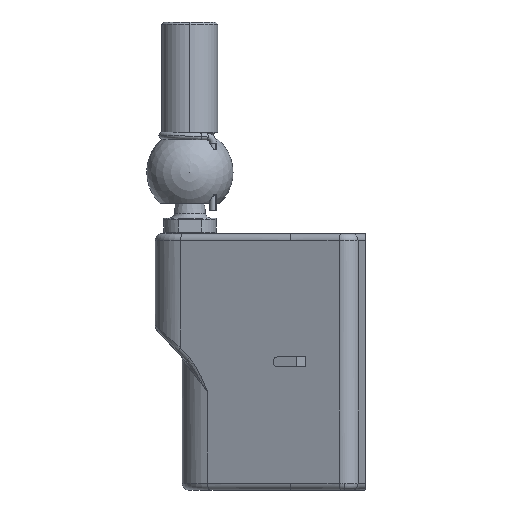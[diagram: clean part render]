
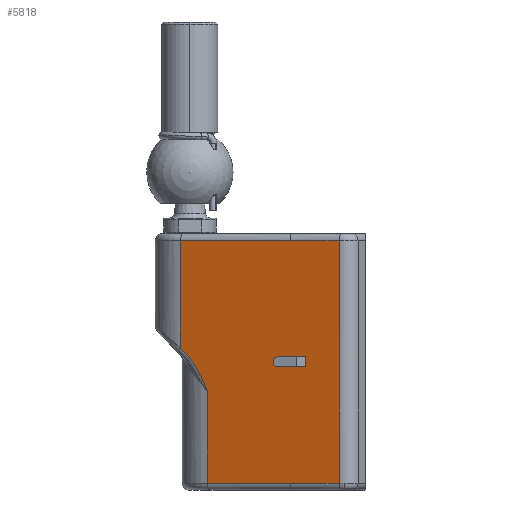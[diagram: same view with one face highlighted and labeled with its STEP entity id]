
A CAD part, left-side view. The second image highlights one B-rep face of the part: STEP entity #5818.
In plain terms, the highlighted planar face has unit normal (-0.927, 0.375, 0).
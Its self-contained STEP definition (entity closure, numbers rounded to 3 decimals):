
#6 = CARTESIAN_POINT ( 'NONE',  ( -25.436, 13.277, -21.176 ) ) ;
#11 = EDGE_CURVE ( 'NONE', #1853, #5465, #714, .T. ) ;
#51 = EDGE_CURVE ( 'NONE', #5465, #3248, #2283, .T. ) ;
#81 = EDGE_CURVE ( 'NONE', #1924, #3204, #5669, .T. ) ;
#84 = DIRECTION ( 'NONE',  ( -0.927, 0.375, 0. ) ) ;
#320 = LINE ( 'NONE', #6098, #4530 ) ;
#329 = ORIENTED_EDGE ( 'NONE', *, *, #4710, .T. ) ;
#347 = CARTESIAN_POINT ( 'NONE',  ( -29.837, 2.384, -19.05 ) ) ;
#353 = DIRECTION ( 'NONE',  ( 0., 0., -1. ) ) ;
#427 = CARTESIAN_POINT ( 'NONE',  ( -29.837, 2.384, -19.05 ) ) ;
#448 = DIRECTION ( 'NONE',  ( -0.927, 0.375, 0. ) ) ;
#470 = DIRECTION ( 'NONE',  ( 0., 0., 1. ) ) ;
#484 = CARTESIAN_POINT ( 'NONE',  ( -24.964, 14.444, -19.095 ) ) ;
#603 = CARTESIAN_POINT ( 'NONE',  ( -31.71, -2.252, -19.75 ) ) ;
#618 = VECTOR ( 'NONE', #3089, 1000. ) ;
#714 = B_SPLINE_CURVE_WITH_KNOTS ( 'NONE', 3,
 ( #5132, #2753, #484, #1362, #4670, #6, #4639, #3735, #4698, #4268, #2853, #2256 ),
 .UNSPECIFIED., .F., .F.,
 ( 4, 2, 2, 2, 2, 4 ),
 ( 0., 0.001, 0.003, 0.004, 0.005, 0.006 ),
 .UNSPECIFIED. ) ;
#771 = EDGE_CURVE ( 'NONE', #960, #5753, #1686, .T. ) ;
#798 = EDGE_CURVE ( 'NONE', #4490, #1924, #4126, .T. ) ;
#823 = CARTESIAN_POINT ( 'NONE',  ( -25.811, 12.348, -38. ) ) ;
#908 = CARTESIAN_POINT ( 'NONE',  ( -30.8, 0., -38. ) ) ;
#930 = VECTOR ( 'NONE', #5188, 1000. ) ;
#960 = VERTEX_POINT ( 'NONE', #2031 ) ;
#1014 = ORIENTED_EDGE ( 'NONE', *, *, #3522, .F. ) ;
#1137 = VECTOR ( 'NONE', #3600, 1000. ) ;
#1219 = ORIENTED_EDGE ( 'NONE', *, *, #51, .T. ) ;
#1306 = CARTESIAN_POINT ( 'NONE',  ( -30.099, 1.735, -19.75 ) ) ;
#1311 = VERTEX_POINT ( 'NONE', #3639 ) ;
#1329 = DIRECTION ( 'NONE',  ( -0.927, 0.375, 0. ) ) ;
#1362 = CARTESIAN_POINT ( 'NONE',  ( -25.17, 13.935, -19.895 ) ) ;
#1379 = ORIENTED_EDGE ( 'NONE', *, *, #3094, .T. ) ;
#1397 = EDGE_CURVE ( 'NONE', #3248, #960, #2816, .T. ) ;
#1422 = CARTESIAN_POINT ( 'NONE',  ( -31.71, -2.252, -19.75 ) ) ;
#1503 = LINE ( 'NONE', #3402, #1137 ) ;
#1506 = ORIENTED_EDGE ( 'NONE', *, *, #11, .T. ) ;
#1577 = LINE ( 'NONE', #2042, #618 ) ;
#1588 = ORIENTED_EDGE ( 'NONE', *, *, #6075, .T. ) ;
#1592 = CARTESIAN_POINT ( 'NONE',  ( -24.195, 16.348, -16.968 ) ) ;
#1686 = LINE ( 'NONE', #1717, #5809 ) ;
#1689 = EDGE_CURVE ( 'NONE', #3582, #3533, #320, .T. ) ;
#1717 = CARTESIAN_POINT ( 'NONE',  ( -30.8, 0., -37. ) ) ;
#1752 = CARTESIAN_POINT ( 'NONE',  ( -25.811, 12.348, -23.399 ) ) ;
#1853 = VERTEX_POINT ( 'NONE', #3478 ) ;
#1920 = VECTOR ( 'NONE', #5178, 1000. ) ;
#1924 = VERTEX_POINT ( 'NONE', #603 ) ;
#1966 = CARTESIAN_POINT ( 'NONE',  ( -31.71, -2.252, -18.25 ) ) ;
#1979 = ORIENTED_EDGE ( 'NONE', *, *, #1689, .T. ) ;
#2031 = CARTESIAN_POINT ( 'NONE',  ( -30.8, 0., -37. ) ) ;
#2042 = CARTESIAN_POINT ( 'NONE',  ( -30.099, 1.735, -18.25 ) ) ;
#2050 = ORIENTED_EDGE ( 'NONE', *, *, #2588, .T. ) ;
#2165 = CARTESIAN_POINT ( 'NONE',  ( -30.8, 0., -1. ) ) ;
#2256 = CARTESIAN_POINT ( 'NONE',  ( -25.811, 12.348, -23.399 ) ) ;
#2283 = LINE ( 'NONE', #823, #3726 ) ;
#2289 = CARTESIAN_POINT ( 'NONE',  ( -30.099, 1.735, -18.95 ) ) ;
#2290 = ORIENTED_EDGE ( 'NONE', *, *, #771, .T. ) ;
#2329 = DIRECTION ( 'NONE',  ( 0., 0., -1. ) ) ;
#2334 = CIRCLE ( 'NONE', #4539, 0.7 ) ;
#2588 = EDGE_CURVE ( 'NONE', #2794, #3582, #3981, .T. ) ;
#2617 = FACE_OUTER_BOUND ( 'NONE', #5569, .T. ) ;
#2753 = CARTESIAN_POINT ( 'NONE',  ( -24.851, 14.723, -18.715 ) ) ;
#2755 = ORIENTED_EDGE ( 'NONE', *, *, #3211, .F. ) ;
#2757 = LINE ( 'NONE', #4705, #2832 ) ;
#2794 = VERTEX_POINT ( 'NONE', #6130 ) ;
#2813 = VECTOR ( 'NONE', #3385, 1000. ) ;
#2816 = LINE ( 'NONE', #5317, #2813 ) ;
#2832 = VECTOR ( 'NONE', #5136, 1000. ) ;
#2840 = ORIENTED_EDGE ( 'NONE', *, *, #2909, .F. ) ;
#2853 = CARTESIAN_POINT ( 'NONE',  ( -25.776, 12.435, -23.176 ) ) ;
#2909 = EDGE_CURVE ( 'NONE', #3204, #5876, #1577, .T. ) ;
#2980 = ORIENTED_EDGE ( 'NONE', *, *, #1397, .T. ) ;
#2986 = CARTESIAN_POINT ( 'NONE',  ( -30.099, 1.735, -19.05 ) ) ;
#3089 = DIRECTION ( 'NONE',  ( 0.375, 0.927, 0. ) ) ;
#3094 = EDGE_CURVE ( 'NONE', #5753, #2794, #6145, .T. ) ;
#3204 = VERTEX_POINT ( 'NONE', #1966 ) ;
#3211 = EDGE_CURVE ( 'NONE', #6083, #4490, #5610, .T. ) ;
#3239 = LINE ( 'NONE', #427, #3917 ) ;
#3248 = VERTEX_POINT ( 'NONE', #3874 ) ;
#3367 = ORIENTED_EDGE ( 'NONE', *, *, #81, .F. ) ;
#3385 = DIRECTION ( 'NONE',  ( -0.375, -0.927, 0. ) ) ;
#3402 = CARTESIAN_POINT ( 'NONE',  ( -24.195, 16.348, -38. ) ) ;
#3419 = AXIS2_PLACEMENT_3D ( 'NONE', #2986, #84, #5839 ) ;
#3458 = CARTESIAN_POINT ( 'NONE',  ( -24.195, 16.348, -1. ) ) ;
#3478 = CARTESIAN_POINT ( 'NONE',  ( -24.721, 15.046, -18.368 ) ) ;
#3522 = EDGE_CURVE ( 'NONE', #1311, #6083, #3239, .T. ) ;
#3533 = VERTEX_POINT ( 'NONE', #3458 ) ;
#3553 = ORIENTED_EDGE ( 'NONE', *, *, #798, .F. ) ;
#3582 = VERTEX_POINT ( 'NONE', #4338 ) ;
#3600 = DIRECTION ( 'NONE',  ( 0., 0., -1. ) ) ;
#3623 = DIRECTION ( 'NONE',  ( -0.375, -0.927, 0. ) ) ;
#3626 = AXIS2_PLACEMENT_3D ( 'NONE', #908, #448, #4690 ) ;
#3639 = CARTESIAN_POINT ( 'NONE',  ( -29.837, 2.384, -18.95 ) ) ;
#3657 = CARTESIAN_POINT ( 'NONE',  ( -33.695, -7.166, -37. ) ) ;
#3726 = VECTOR ( 'NONE', #353, 1000. ) ;
#3735 = CARTESIAN_POINT ( 'NONE',  ( -25.63, 12.797, -22.28 ) ) ;
#3780 = CARTESIAN_POINT ( 'NONE',  ( -33.695, -7.166, -76.525 ) ) ;
#3874 = CARTESIAN_POINT ( 'NONE',  ( -25.811, 12.348, -37. ) ) ;
#3917 = VECTOR ( 'NONE', #2329, 1000. ) ;
#3968 = VERTEX_POINT ( 'NONE', #1592 ) ;
#3981 = LINE ( 'NONE', #2165, #4004 ) ;
#4004 = VECTOR ( 'NONE', #5857, 1000. ) ;
#4125 = EDGE_LOOP ( 'NONE', ( #2840, #3367, #3553, #2755, #1014, #6177 ) ) ;
#4126 = LINE ( 'NONE', #1306, #1920 ) ;
#4268 = CARTESIAN_POINT ( 'NONE',  ( -25.74, 12.524, -22.95 ) ) ;
#4311 = CARTESIAN_POINT ( 'NONE',  ( -30.099, 1.735, -18.25 ) ) ;
#4338 = CARTESIAN_POINT ( 'NONE',  ( -30.8, 0., -1. ) ) ;
#4490 = VERTEX_POINT ( 'NONE', #5361 ) ;
#4530 = VECTOR ( 'NONE', #5040, 1000. ) ;
#4539 = AXIS2_PLACEMENT_3D ( 'NONE', #2289, #1329, #5312 ) ;
#4541 = PLANE ( 'NONE',  #3626 ) ;
#4639 = CARTESIAN_POINT ( 'NONE',  ( -25.515, 13.08, -21.614 ) ) ;
#4670 = CARTESIAN_POINT ( 'NONE',  ( -25.263, 13.705, -20.315 ) ) ;
#4690 = DIRECTION ( 'NONE',  ( -0.375, -0.927, 0. ) ) ;
#4698 = CARTESIAN_POINT ( 'NONE',  ( -25.667, 12.705, -22.503 ) ) ;
#4705 = CARTESIAN_POINT ( 'NONE',  ( -31.448, -1.603, -36.265 ) ) ;
#4710 = EDGE_CURVE ( 'NONE', #3968, #1853, #2757, .T. ) ;
#4711 = EDGE_CURVE ( 'NONE', #5876, #1311, #2334, .T. ) ;
#5040 = DIRECTION ( 'NONE',  ( 0.375, 0.927, 0. ) ) ;
#5132 = CARTESIAN_POINT ( 'NONE',  ( -24.721, 15.046, -18.368 ) ) ;
#5136 = DIRECTION ( 'NONE',  ( -0.265, -0.657, -0.706 ) ) ;
#5178 = DIRECTION ( 'NONE',  ( -0.375, -0.927, 0. ) ) ;
#5188 = DIRECTION ( 'NONE',  ( 0., 0., 1. ) ) ;
#5312 = DIRECTION ( 'NONE',  ( -0.375, -0.927, 0. ) ) ;
#5317 = CARTESIAN_POINT ( 'NONE',  ( -30.8, 0., -37. ) ) ;
#5361 = CARTESIAN_POINT ( 'NONE',  ( -30.099, 1.735, -19.75 ) ) ;
#5403 = VECTOR ( 'NONE', #470, 1000. ) ;
#5465 = VERTEX_POINT ( 'NONE', #1752 ) ;
#5569 = EDGE_LOOP ( 'NONE', ( #2050, #1979, #1588, #329, #1506, #1219, #2980, #2290, #1379 ) ) ;
#5610 = CIRCLE ( 'NONE', #3419, 0.7 ) ;
#5669 = LINE ( 'NONE', #1422, #930 ) ;
#5753 = VERTEX_POINT ( 'NONE', #3657 ) ;
#5809 = VECTOR ( 'NONE', #3623, 1000. ) ;
#5818 = ADVANCED_FACE ( 'NONE', ( #5938, #2617 ), #4541, .T. ) ;
#5839 = DIRECTION ( 'NONE',  ( 0.375, 0.927, 0. ) ) ;
#5857 = DIRECTION ( 'NONE',  ( 0.375, 0.927, 0. ) ) ;
#5876 = VERTEX_POINT ( 'NONE', #4311 ) ;
#5938 = FACE_BOUND ( 'NONE', #4125, .T. ) ;
#6075 = EDGE_CURVE ( 'NONE', #3533, #3968, #1503, .T. ) ;
#6083 = VERTEX_POINT ( 'NONE', #347 ) ;
#6098 = CARTESIAN_POINT ( 'NONE',  ( -30.8, 0., -1. ) ) ;
#6130 = CARTESIAN_POINT ( 'NONE',  ( -33.695, -7.166, -1. ) ) ;
#6145 = LINE ( 'NONE', #3780, #5403 ) ;
#6177 = ORIENTED_EDGE ( 'NONE', *, *, #4711, .F. ) ;
